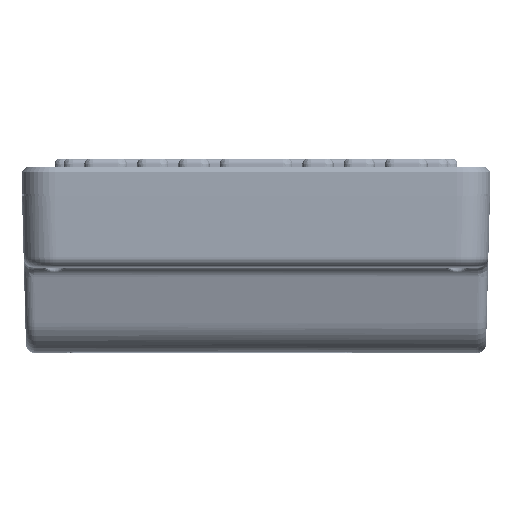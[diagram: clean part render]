
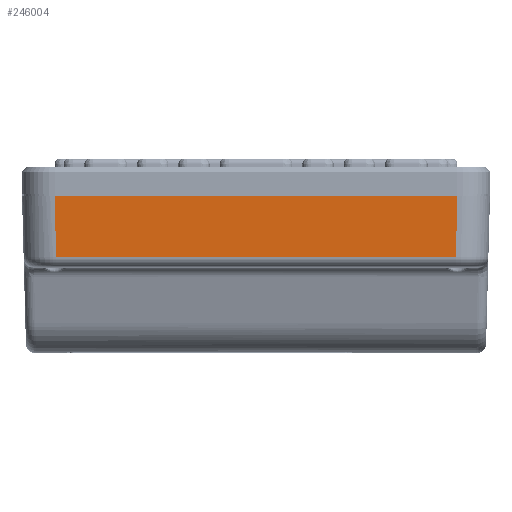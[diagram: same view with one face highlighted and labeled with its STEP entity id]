
A CAD part, top view. The second image highlights one B-rep face of the part: STEP entity #246004.
In plain terms, the highlighted planar face has unit normal (0, -0.026, 1).
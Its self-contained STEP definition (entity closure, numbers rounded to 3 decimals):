
#219607=DIRECTION('',(-1.,0.,0.));
#219608=VECTOR('',#219607,80.483);
#219609=CARTESIAN_POINT('',(40.242,-0.3,
127.24));
#219610=LINE('',#219609,#219608);
#219811=DIRECTION('',(-0.026,-0.999,
-0.026));
#219812=VECTOR('',#219811,12.161);
#219813=CARTESIAN_POINT('',(40.242,-0.3,
127.24));
#219814=LINE('',#219813,#219812);
#219818=DIRECTION('',(-0.026,0.999,0.026));
#219819=VECTOR('',#219818,12.161);
#219820=CARTESIAN_POINT('',(-39.924,-12.452,
126.921));
#219821=LINE('',#219820,#219819);
#219825=CARTESIAN_POINT('',(40.242,-0.3,
127.24));
#225772=DIRECTION('',(1.,0.,0.));
#225773=VECTOR('',#225772,79.847);
#225774=CARTESIAN_POINT('',(-39.924,-12.452,
126.921));
#225775=LINE('',#225774,#225773);
#240565=VERTEX_POINT('',#219825);
#240566=CARTESIAN_POINT('',(-40.242,-0.3,
127.24));
#240567=VERTEX_POINT('',#240566);
#240937=CARTESIAN_POINT('',(39.923,-12.452,
126.921));
#240938=VERTEX_POINT('',#240937);
#240939=CARTESIAN_POINT('',(-39.923,-12.452,
126.921));
#240940=VERTEX_POINT('',#240939);
#245991=CARTESIAN_POINT('',(47.95,0.1,127.25));
#245992=DIRECTION('',(0.,-0.026,1.));
#245993=DIRECTION('',(1.,0.,0.));
#245994=AXIS2_PLACEMENT_3D('',#245991,#245992,#245993);
#245995=PLANE('',#245994);
#245996=ORIENTED_EDGE('',*,*,#245842,.F.);
#245998=ORIENTED_EDGE('',*,*,#245997,.T.);
#246000=ORIENTED_EDGE('',*,*,#245999,.F.);
#246001=ORIENTED_EDGE('',*,*,#245976,.T.);
#246002=EDGE_LOOP('',(#245996,#245998,#246000,#246001));
#246003=FACE_OUTER_BOUND('',#246002,.F.);
#246004=ADVANCED_FACE('',(#246003),#245995,.T.);
#245842=EDGE_CURVE('',#240565,#240567,#219610,.T.);
#245976=EDGE_CURVE('',#240940,#240567,#219821,.T.);
#245997=EDGE_CURVE('',#240565,#240938,#219814,.T.);
#245999=EDGE_CURVE('',#240940,#240938,#225775,.T.);
